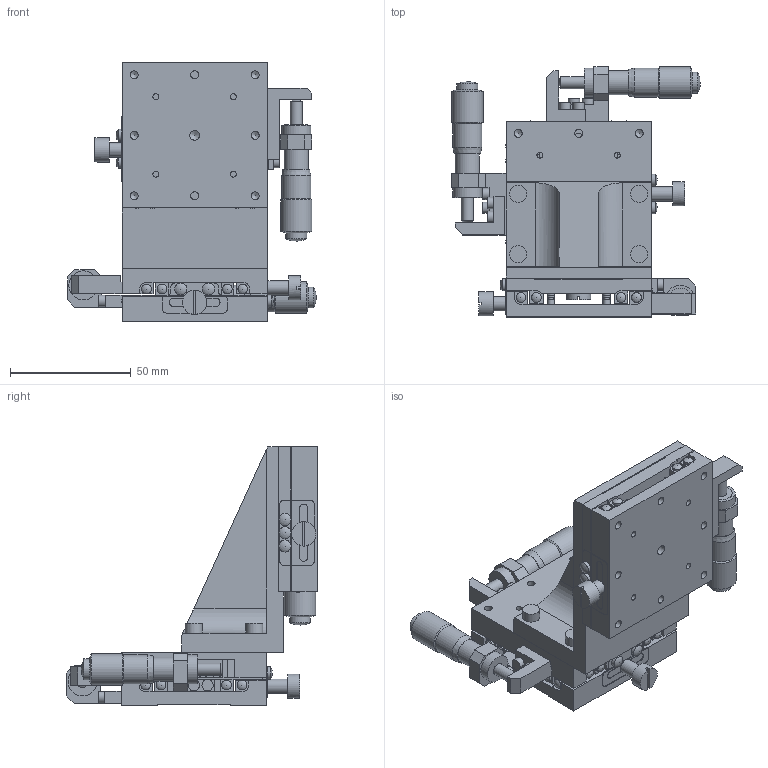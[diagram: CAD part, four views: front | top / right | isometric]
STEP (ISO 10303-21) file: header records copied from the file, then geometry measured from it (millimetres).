
FILE_DESCRIPTION( ( 'STEP AP203' ), '1' );
FILE_NAME( 'C:/3D-Trans/3D_BSS73-60CR+080828.step', '2008-08-28T00:55:29', ( ' ' ), ( ' ' ), 'XStep 1.0', ' ', ' ' );
FILE_SCHEMA( ( 'CONFIG_CONTROL_DESIGN' ) );
Length unit declared in the file: millimetre
Products named in the file (9): 1; 2; 3; 4; 5; 6; 7; 8; 9
Bounding box: 102.8 x 103.5 x 107.2 mm (x, y, z)
Volume: 204863.8 mm3; surface area: 90436.4 mm2
Topology: 9 solids, 9 shells, 634 faces, 1716 edges, 1127 vertices
Faces by surface type: plane 343, cylinder 225, sphere 37, cone 29
Full cylindrical faces by diameter (mm): 2 x6, 2.5 x12, 3 x15, 3.3 x28, 3.5 x6, 4 x28, 4.5 x8, 4.7 x14, 5 x13, 6 x3, 7 x4, 8 x8, 8.6 x3, 9.5 x1, 10 x6, 10.5 x3, 12 x6, 13 x3
Entity records: 17868 total; most frequent: DIRECTION 3054, CARTESIAN_POINT 2961, ORIENTED_EDGE 2634, EDGE_CURVE 1317, AXIS2_PLACEMENT_3D 1098, VERTEX_POINT 981, EDGE_LOOP 976, LINE 858
